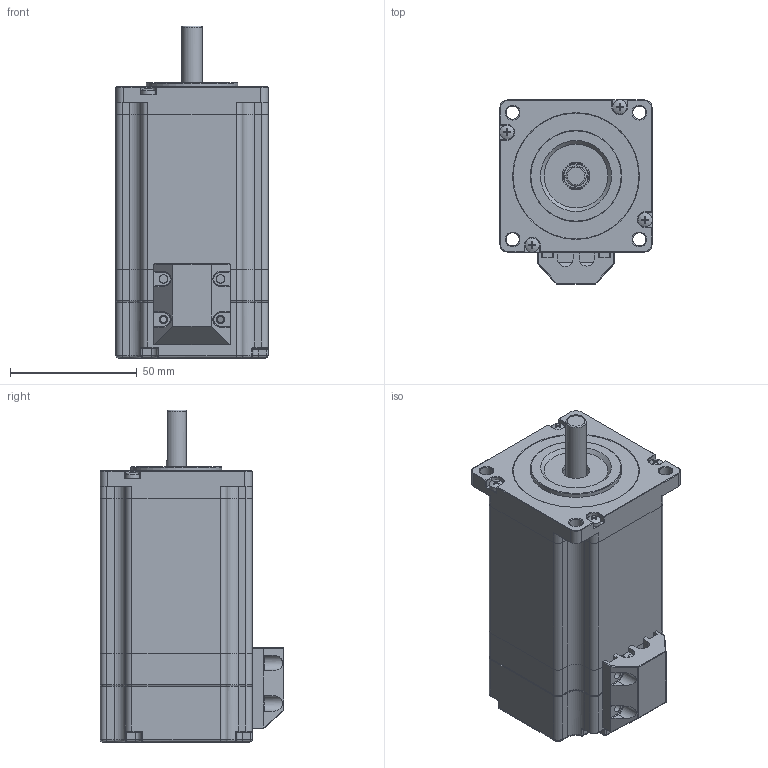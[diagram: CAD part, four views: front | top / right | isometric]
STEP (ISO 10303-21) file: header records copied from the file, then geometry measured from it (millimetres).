
FILE_DESCRIPTION (( 'STEP AP203' ), '1' );
FILE_NAME ('YK260EC86E1.STEP', '2018-10-11T03:33:45', ( '' ), ( '' ), 'SwSTEP 2.0', 'SolidWorks 2014', '' );
FILE_SCHEMA (( 'CONFIG_CONTROL_DESIGN' ));
Length unit declared in the file: millimetre
Products named in the file (18): YK260EC ヶ裔; YK260EC 粣; YK260EC 坋趼羞攫芛蹟隊; YK260EC 隅赽; YK260萇儂晤鎢ん欶; YK260EC86E1; YK260EC 綴裔; 260萇儂萇擢揤啣
Assembly tree (10 placements, depth 2):
  YK260EC ヶ裔
  YK260EC 坋趼羞攫芛蹟隊
  YK260EC 隅赽
  YK260EC 坋趼羞攫芛蹟隊
  YK260萇儂晤鎢ん欶
Bounding box: 60.1 x 72.55 x 131 mm (x, y, z)
Volume: 198650.5 mm3; surface area: 81717 mm2
Topology: 10 solids, 10 shells, 1563 faces, 3419 edges, 1882 vertices
Faces by surface type: cone 972, plane 307, cylinder 216, torus 47, bspline 13, sphere 8
Full cylindrical faces by diameter (mm): 2.5 x6, 2.598 x4, 3 x4, 3.2 x8, 3.3 x4, 5.2 x4, 5.6 x4, 8 x2, 10 x1, 11 x2, 22 x2, 26 x2, 36 x1, 39 x3, 39.6 x2, 50 x1, 55 x1
Entity records: 23255 total; most frequent: CARTESIAN_POINT 4319, DIRECTION 3767, ORIENTED_EDGE 3136, EDGE_CURVE 1568, AXIS2_PLACEMENT_3D 1483, EDGE_LOOP 1165, VERTEX_POINT 1099, FACE_OUTER_BOUND 846
